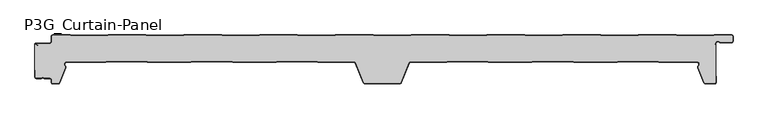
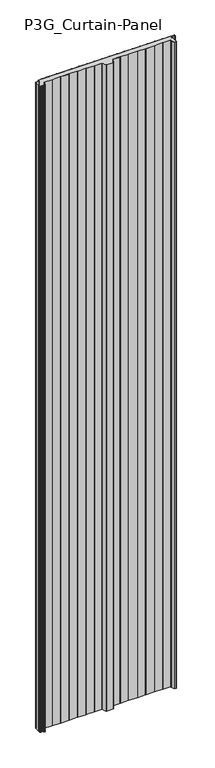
"""IFC4 building model written with IfcOpenShell, lengths in millimetres: plate geometry, P3G_Curtain-Panel : ACH_P3G_3-Rib-Roof-Panel_40M."""

import ifcopenshell
import ifcopenshell.guid

model = None  # the IFC model being written
_history = None  # IfcOwnerHistory: only IFC2X3 demands one
_inside = {}  # id of a spatial element -> (the spatial element, [elements in it])
_under = {}  # id of a project, library or spatial element -> (it, [spatial elements below it])
_declared = {}  # id of a project -> (the project, [libraries it declares])
_typed = {}  # id of a type object -> (the type object, [elements of that type])
_made_of = {}  # id of a material, layer set ... -> (it, [elements and type objects made of it])


def new_model(schema):
    """Start an empty IFC model of exactly this schema.

    Asked for "IFC4X3", IfcOpenShell would pick the latest addendum, in which some entities
    have other attributes; the version numbers below select the first issue.
    IFC2X3 requires an IfcOwnerHistory on every rooted entity: one is made here for all.
    """
    global model, _history
    if schema == "IFC4X3":
        model = ifcopenshell.file(schema_version=(4, 3, 0, 0))
    else:
        model = ifcopenshell.file(schema=schema)
    _inside.clear()
    _under.clear()
    _declared.clear()
    _typed.clear()
    _made_of.clear()
    _history = None
    if model.schema == "IFC2X3":
        org = make("IfcOrganization", Name="unknown")
        user = make(
            "IfcPersonAndOrganization",
            ThePerson=make("IfcPerson", FamilyName="unknown"),
            TheOrganization=org,
        )
        app = make(
            "IfcApplication",
            ApplicationDeveloper=org,
            Version="unknown",
            ApplicationFullName="unknown",
            ApplicationIdentifier="unknown",
        )
        _history = make(
            "IfcOwnerHistory",
            OwningUser=user,
            OwningApplication=app,
            ChangeAction="ADDED",
            CreationDate=0,
        )
    return model


def make(cls, **values):
    """One entity of the class cls with the attributes given. An attribute that is None is left unset."""
    return model.create_entity(
        cls, **{name: value for name, value in values.items() if value is not None}
    )


def rooted(cls, **values):
    """An entity with a GlobalId (a new one), such as an element, a storey or a relation."""
    return make(cls, GlobalId=ifcopenshell.guid.new(), OwnerHistory=_history, **values)


def si_unit(unit_type, name, prefix=None):
    """IfcSIUnit, for example si_unit("LENGTHUNIT", "METRE", prefix="MILLI")."""
    return make("IfcSIUnit", UnitType=unit_type, Prefix=prefix, Name=name)


def assignment(units):
    """IfcUnitAssignment: the units of a project."""
    return None if units is None else make("IfcUnitAssignment", Units=units)


def point(xyz):
    """IfcCartesianPoint."""
    return None if xyz is None else make("IfcCartesianPoint", Coordinates=xyz)


def direction(xyz):
    """IfcDirection."""
    return None if xyz is None else make("IfcDirection", DirectionRatios=xyz)


def frame(location, z_axis=None, x_axis=None):
    """IfcAxis2Placement3D, a coordinate frame: its origin and axes. An axis left out is left unset."""
    return make(
        "IfcAxis2Placement3D",
        Location=point(location),
        Axis=direction(z_axis),
        RefDirection=direction(x_axis),
    )


def frame_2d(location, x_axis=None):
    """IfcAxis2Placement2D, a coordinate frame in the plane: its origin and x axis."""
    return make(
        "IfcAxis2Placement2D", Location=point(location), RefDirection=direction(x_axis)
    )


def origin():
    """The frame at (0, 0, 0) with its axes left unset."""
    return frame((0.0, 0.0, 0.0))


def origin_with_axes():
    """The frame at (0, 0, 0) with the z axis (0, 0, 1) and the x axis (1, 0, 0) written out."""
    return frame((0.0, 0.0, 0.0), z_axis=(0.0, 0.0, 1.0), x_axis=(1.0, 0.0, 0.0))


def place(relative_to, where):
    """IfcLocalPlacement: puts the frame where relative to a parent placement (None: the world)."""
    return make(
        "IfcLocalPlacement", PlacementRelTo=relative_to, RelativePlacement=where
    )


def context(
    kind, dimensions, precision=None, world=None, true_north=None, identifier=None
):
    """IfcGeometricRepresentationContext, for example the 3D "Model" context."""
    return make(
        "IfcGeometricRepresentationContext",
        ContextIdentifier=identifier,
        ContextType=kind,
        CoordinateSpaceDimension=dimensions,
        Precision=precision,
        WorldCoordinateSystem=world,
        TrueNorth=true_north,
    )


def project(units=None, contexts=None):
    """IfcProject with its units and contexts."""
    return rooted(
        "IfcProject",
        Name="project",
        RepresentationContexts=contexts,
        UnitsInContext=assignment(units),
    )


def spatial(cls, under=None, at=None, **own):
    """A site, building, storey or space (cls), placed at a placement, below another one or the project."""
    s = rooted(cls, ObjectPlacement=at, **own)
    if under is not None:
        _under.setdefault(under.id(), (under, []))[1].append(s)
    return s


def polyline(points):
    """IfcPolyline through the points."""
    return make("IfcPolyline", Points=[point(p) for p in points])


def circle_curve(where, radius):
    """IfcCircle in the frame where."""
    return make("IfcCircle", Position=where, Radius=radius)


def trimmed(basis, trim1, trim2, sense, master):
    """IfcTrimmedCurve: the piece of a basis curve between two trims."""
    return make(
        "IfcTrimmedCurve",
        BasisCurve=basis,
        Trim1=trim1,
        Trim2=trim2,
        SenseAgreement=sense,
        MasterRepresentation=master,
    )


def segment(curve, same_sense, transition):
    """IfcCompositeCurveSegment."""
    return make(
        "IfcCompositeCurveSegment",
        Transition=transition,
        SameSense=same_sense,
        ParentCurve=curve,
    )


def composite_curve(segments, self_intersect=None):
    """IfcCompositeCurve: segments joined end to end."""
    return make("IfcCompositeCurve", Segments=segments, SelfIntersect=self_intersect)


def outline(outer, holes=None, kind="AREA"):
    """IfcArbitraryClosedProfileDef: a profile drawn as a closed curve; with holes, ...WithVoids."""
    if holes is None:
        return make("IfcArbitraryClosedProfileDef", ProfileType=kind, OuterCurve=outer)
    return make(
        "IfcArbitraryProfileDefWithVoids",
        ProfileType=kind,
        OuterCurve=outer,
        InnerCurves=holes,
    )


def extrude(swept, where, along, depth):
    """IfcExtrudedAreaSolid: the profile swept, set in the frame where, extruded along a direction by depth."""
    return make(
        "IfcExtrudedAreaSolid",
        SweptArea=swept,
        Position=where,
        ExtrudedDirection=direction(along),
        Depth=depth,
    )


def shape(context_of_items, identifier, shape_type, items):
    """IfcShapeRepresentation: the items that make up one representation, for example the "Body"."""
    return make(
        "IfcShapeRepresentation",
        ContextOfItems=context_of_items,
        RepresentationIdentifier=identifier,
        RepresentationType=shape_type,
        Items=items,
    )


def source(mapping_origin, context_of_items, identifier, shape_type, items):
    """IfcRepresentationMap: a shape defined once, which mapped items show again and again."""
    return make(
        "IfcRepresentationMap",
        MappingOrigin=mapping_origin,
        MappedRepresentation=shape(context_of_items, identifier, shape_type, items),
    )


def transform(
    local_origin,
    x_axis=None,
    y_axis=None,
    z_axis=None,
    scale=None,
    scale2=None,
    scale3=None,
    uniform=True,
):
    """IfcCartesianTransformationOperator3D, or its non-uniform kind. x_axis, y_axis, z_axis: its Axis1, 2, 3."""
    if uniform:
        return make(
            "IfcCartesianTransformationOperator3D",
            Axis1=direction(x_axis),
            Axis2=direction(y_axis),
            LocalOrigin=point(local_origin),
            Scale=scale,
            Axis3=direction(z_axis),
        )
    return make(
        "IfcCartesianTransformationOperator3DnonUniform",
        Axis1=direction(x_axis),
        Axis2=direction(y_axis),
        LocalOrigin=point(local_origin),
        Scale=scale,
        Axis3=direction(z_axis),
        Scale2=scale2,
        Scale3=scale3,
    )


def mapped(mapping_source, mapping_target):
    """IfcMappedItem: shows the shape of a source again, moved by a transform."""
    return make(
        "IfcMappedItem", MappingSource=mapping_source, MappingTarget=mapping_target
    )


def made_of(thing, what):
    """Note that an element or type object is made of a material, layer set ...; save() writes the relation."""
    if what is not None:
        _made_of.setdefault(what.id(), (what, []))[1].append(thing)
    return thing


def element(
    cls,
    number,
    at=None,
    inside=None,
    cuts=None,
    type_object=None,
    material=None,
    context=None,
    identifier="Body",
    shape_type=None,
    held_by="IfcProductDefinitionShape",
    body=None,
    shapes=None,
    **own,
):
    """One element of the class cls, such as IfcWall. Its Tag is "e" and its number.

    at: its placement. inside: the storey or other place that contains it. cuts: it is an
    opening in that element (IfcRelVoidsElement). A single representation is given by context,
    identifier, shape_type and body (its items); several are given by shapes. held_by: the class
    of the entity that holds the representations. save() writes the other relations.
    """
    e = rooted(cls, Tag="e%d" % number, ObjectPlacement=at, **own)
    if body is not None:
        shapes = [shape(context, identifier, shape_type, body)]
    if shapes is not None:
        e.Representation = make(held_by, Representations=shapes)
    if inside is not None:
        _inside.setdefault(inside.id(), (inside, []))[1].append(e)
    if cuts is not None:
        rooted(
            "IfcRelVoidsElement", RelatingBuildingElement=cuts, RelatedOpeningElement=e
        )
    if type_object is not None:
        _typed.setdefault(type_object.id(), (type_object, []))[1].append(e)
    return made_of(e, material)


def aggregate(whole, parts):
    """IfcRelAggregates: a whole, such as a stair, and the parts it consists of."""
    return rooted("IfcRelAggregates", RelatingObject=whole, RelatedObjects=parts)


def save(model, path):
    """Write the relations noted so far, then the file.

    IfcRelAggregates (storeys below a building ...), IfcRelContainedInSpatialStructure (elements
    in a storey), IfcRelDefinesByType, IfcRelAssociatesMaterial and IfcRelDeclares: one each for
    every whole, place, type object, material and project.
    """
    for whole, parts in _under.values():
        aggregate(whole, parts)
    for where, things in _inside.values():
        rooted(
            "IfcRelContainedInSpatialStructure",
            RelatedElements=things,
            RelatingStructure=where,
        )
    for kind, things in _typed.values():
        rooted("IfcRelDefinesByType", RelatedObjects=things, RelatingType=kind)
    for what, things in _made_of.values():
        rooted("IfcRelAssociatesMaterial", RelatedObjects=things, RelatingMaterial=what)
    for by, libraries in _declared.values():
        rooted("IfcRelDeclares", RelatingContext=by, RelatedDefinitions=libraries)
    model.write(path)


def p3g_curtain_panel_b13fab03(model_context):
    return source(origin(), model_context, "Body", "SweptSolid", [
        extrude(outline(composite_curve([segment(polyline([(-499.496875, -13.8660254), (-495.496875, -16.1754265), (-495.096875, -15.4826062), (-498.1272598, -13.7330127)]), True, "CONTINUOUS"), segment(trimmed(circle_curve(frame_2d((-497.8772598, -13.3)), 0.5), [point((-498.1272598, -13.7330127))], [point((-497.8772598, -12.8))], False, "CARTESIAN"), True, "CONTINUOUS"), segment(polyline([(-497.8772598, -12.8), (-477.996875, -12.8)]), True, "CONTINUOUS"), segment(trimmed(circle_curve(frame_2d((-477.996875, -10.0)), 2.8), [point((-477.996875, -12.8))], [point((-475.196875, -10.0))], True, "CARTESIAN"), True, "CONTINUOUS"), segment(polyline([(-475.196875, -10.0), (-475.196875, -2.5)]), True, "CONTINUOUS"), segment(trimmed(circle_curve(frame_2d((-473.496875, -2.5)), 1.7), [point((-475.196875, -2.5))], [point((-473.496875, -0.8))], False, "CARTESIAN"), True, "CONTINUOUS"), segment(polyline([(-473.496875, -0.8), (-448.4313592, -0.8), (-447.4338592, -1.4), (-393.4298908, -1.4), (-392.4323908, -0.8), (-337.3213592, -0.8), (-336.3238592, -1.4), (-282.3198908, -1.4), (-281.3223908, -0.8), (-226.2113592, -0.8), (-225.2138592, -1.4), (-171.2098908, -1.4), (-170.2123908, -0.8), (-115.1013592, -0.8), (-114.1038592, -1.4), (-60.0998908, -1.4), (-59.1023908, -0.8), (-3.9913592, -0.8), (-2.9938592, -1.4), (51.0101092, -1.4), (52.0076092, -0.8), (107.1186408, -0.8), (108.1161408, -1.4), (162.1201092, -1.4), (163.1176092, -0.8), (218.2286408, -0.8), (219.2261408, -1.4), (273.2301092, -1.4), (274.2276092, -0.8), (329.3386408, -0.8), (330.3361408, -1.4), (384.3401092, -1.4), (385.3376092, -0.8), (440.4486408, -0.8), (441.4461408, -1.4), (495.4501092, -1.4), (496.4476092, -0.8), (521.503125, -0.8)]), True, "CONTINUOUS"), segment(trimmed(circle_curve(frame_2d((521.503125, -2.5)), 1.7), [point((521.503125, -0.8))], [point((523.203125, -2.5))], False, "CARTESIAN"), True, "CONTINUOUS"), segment(polyline([(523.203125, -2.5), (523.203125, -9.0)]), True, "CONTINUOUS"), segment(trimmed(circle_curve(frame_2d((521.503125, -9.0)), 1.7), [point((523.203125, -9.0))], [point((521.503125, -10.7))], False, "CARTESIAN"), True, "CONTINUOUS"), segment(polyline([(521.503125, -10.7), (505.8568186, -10.7)]), True, "CONTINUOUS"), segment(trimmed(circle_curve(frame_2d((505.8568186, -9.0)), 1.7), [point((505.8568186, -10.7))], [point((504.7323743, -10.275))], False, "CARTESIAN"), True, "CONTINUOUS"), segment(trimmed(circle_curve(frame_2d((501.8881916, -13.5)), 4.3), [point((504.7323743, -10.275))], [point((497.8475134, -12.0293134))], True, "CARTESIAN"), True, "CONTINUOUS"), segment(polyline([(497.8475134, -12.0293134), (497.1006025, -14.0814342)]), True, "CONTINUOUS"), segment(trimmed(circle_curve(frame_2d((495.503125, -13.5)), 1.7), [point((497.1006025, -14.0814342))], [point((495.503125, -15.2))], False, "CARTESIAN"), True, "CONTINUOUS"), segment(polyline([(495.503125, -15.2), (490.503125, -15.2), (490.503125, -16.0), (495.503125, -16.0)]), True, "CONTINUOUS"), segment(trimmed(circle_curve(frame_2d((495.503125, -13.5)), 2.5), [point((495.503125, -16.0))], [point((497.8523566, -14.3550504))], True, "CARTESIAN"), True, "CONTINUOUS"), segment(polyline([(497.8523566, -14.3550504), (498.203125, -13.391322), (498.203125, -69.5)]), True, "CONTINUOUS"), segment(trimmed(circle_curve(frame_2d((496.503125, -69.5)), 1.7), [point((498.203125, -69.5))], [point((496.503125, -71.2))], False, "CARTESIAN"), True, "CONTINUOUS"), segment(polyline([(496.503125, -71.2), (483.6093963, -71.2)]), True, "CONTINUOUS"), segment(trimmed(circle_curve(frame_2d((483.6093963, -69.5)), 1.7), [point((483.6093963, -71.2))], [point((482.0331837, -70.1368312))], False, "CARTESIAN"), True, "CONTINUOUS"), segment(polyline([(482.0331837, -70.1368312), (473.0241766, -47.838756)]), True, "CONTINUOUS"), segment(trimmed(circle_curve(frame_2d((474.6003891, -47.2019248)), 1.7), [point((473.0241766, -47.838756))], [point((473.4430606, -45.9566976))], False, "CARTESIAN"), True, "CONTINUOUS"), segment(trimmed(circle_curve(frame_2d((470.7880129, -43.1)), 3.9), [point((473.4430606, -45.9566976))], [point((470.7880129, -39.2))], True, "CARTESIAN"), True, "CONTINUOUS"), segment(polyline([(470.7880129, -39.2), (415.2251881, -39.2), (414.2276881, -38.6), (354.7785619, -38.6), (353.7810619, -39.2), (290.2252392, -39.2), (289.2266715, -38.6), (229.7795785, -38.6), (228.7810108, -39.2), (165.225925, -39.2), (164.2273573, -38.6), (104.7788927, -38.6), (103.780325, -39.2), (50.7367047, -39.2)]), True, "CONTINUOUS"), segment(trimmed(circle_curve(frame_2d((50.7367047, -42.0)), 2.8), [point((50.7367047, -39.2))], [point((48.1405899, -40.9511015))], True, "CARTESIAN"), True, "CONTINUOUS"), segment(polyline([(48.1405899, -40.9511015), (36.4751274, -69.8241345)]), True, "CONTINUOUS"), segment(trimmed(circle_curve(frame_2d((34.4353229, -69.0)), 2.2), [point((36.4751274, -69.8241345))], [point((34.4353229, -71.2))], False, "CARTESIAN"), True, "CONTINUOUS"), segment(polyline([(34.4353229, -71.2), (-15.5090729, -71.2)]), True, "CONTINUOUS"), segment(trimmed(circle_curve(frame_2d((-15.5090729, -69.0)), 2.2), [point((-15.5090729, -71.2))], [point((-17.5488774, -69.8241345))], False, "CARTESIAN"), True, "CONTINUOUS"), segment(polyline([(-17.5488774, -69.8241345), (-29.2143399, -40.9511015)]), True, "CONTINUOUS"), segment(trimmed(circle_curve(frame_2d((-31.8104547, -42.0)), 2.8), [point((-29.2143399, -40.9511015))], [point((-31.8104547, -39.2))], True, "CARTESIAN"), True, "CONTINUOUS"), segment(polyline([(-31.8104547, -39.2), (-84.8548119, -39.2), (-85.8523119, -38.6), (-145.3014381, -38.6), (-146.2989381, -39.2), (-209.8548119, -39.2), (-210.8523119, -38.6), (-270.3014381, -38.6), (-271.2989381, -39.2), (-334.8548119, -39.2), (-335.8523119, -38.6), (-395.3011073, -38.6), (-396.299675, -39.2), (-453.2387629, -39.2)]), True, "CONTINUOUS"), segment(trimmed(circle_curve(frame_2d((-453.2387629, -43.1)), 3.9), [point((-453.2387629, -39.2))], [point((-455.8938106, -45.9566976))], True, "CARTESIAN"), True, "CONTINUOUS"), segment(trimmed(circle_curve(frame_2d((-457.0511391, -47.2019248)), 1.7), [point((-455.8938106, -45.9566976))], [point((-455.4749266, -47.838756))], False, "CARTESIAN"), True, "CONTINUOUS"), segment(polyline([(-455.4749266, -47.838756), (-464.4839337, -70.1368312)]), True, "CONTINUOUS"), segment(trimmed(circle_curve(frame_2d((-466.0601463, -69.5)), 1.7), [point((-464.4839337, -70.1368312))], [point((-466.0601463, -71.2))], False, "CARTESIAN"), True, "CONTINUOUS"), segment(polyline([(-466.0601463, -71.2), (-473.496875, -71.2)]), True, "CONTINUOUS"), segment(trimmed(circle_curve(frame_2d((-473.496875, -69.5)), 1.7), [point((-473.496875, -71.2))], [point((-475.196875, -69.5))], False, "CARTESIAN"), True, "CONTINUOUS"), segment(polyline([(-475.196875, -69.5), (-475.196875, -66.0)]), True, "CONTINUOUS"), segment(trimmed(circle_curve(frame_2d((-477.996875, -66.0)), 2.8), [point((-475.196875, -66.0))], [point((-477.996875, -63.2))], True, "CARTESIAN"), True, "CONTINUOUS"), segment(polyline([(-477.996875, -63.2), (-486.5995084, -63.2)]), True, "CONTINUOUS"), segment(trimmed(circle_curve(frame_2d((-488.496875, -64.5)), 2.3), [point((-486.5995084, -63.2))], [point((-490.3942416, -63.2))], True, "CARTESIAN"), True, "CONTINUOUS"), segment(polyline([(-490.3942416, -63.2), (-497.496875, -63.2)]), True, "CONTINUOUS"), segment(trimmed(circle_curve(frame_2d((-497.496875, -61.5)), 1.7), [point((-497.496875, -63.2))], [point((-499.196875, -61.5))], False, "CARTESIAN"), True, "CONTINUOUS"), segment(polyline([(-499.196875, -61.5), (-499.196875, -51.18), (-499.996875, -51.18), (-499.996875, -13.0)]), True, "CONTINUOUS"), segment(trimmed(circle_curve(frame_2d((-498.996875, -13.0)), 1.0), [point((-499.996875, -13.0))], [point((-499.496875, -13.8660254))], True, "CARTESIAN"), True, "CONTINUOUS")], self_intersect=False)), origin_with_axes(), (0.0, 0.0, 1.0), 5000.0),
        extrude(outline(composite_curve([segment(trimmed(circle_curve(frame_2d((-478.0, -10.0)), 2.0), [point((-478.0, -12.0))], [point((-476.0, -10.0))], True, "CARTESIAN"), True, "CONTINUOUS"), segment(polyline([(-476.0, -10.0), (-476.0, -2.5)]), True, "CONTINUOUS"), segment(trimmed(circle_curve(frame_2d((-473.5, -2.5)), 2.5), [point((-476.0, -2.5))], [point((-473.5, 0.0))], False, "CARTESIAN"), True, "CONTINUOUS"), segment(polyline([(-473.5, 0.0), (-448.2124211, 0.0), (-447.2149211, -0.6), (-393.6550789, -0.6), (-392.6575789, 0.0), (-337.1024211, 0.0), (-336.1049211, -0.6), (-282.5450789, -0.6), (-281.5475789, 0.0), (-225.9924211, 0.0), (-224.9949211, -0.6), (-171.4350789, -0.6), (-170.4375789, 0.0), (-114.8824211, 0.0), (-113.8849211, -0.6), (-60.3250789, -0.6), (-59.3275789, 0.0), (-3.7724211, 0.0), (-2.7749211, -0.6), (50.7849211, -0.6), (51.7824211, 0.0), (107.3375789, 0.0), (108.3350789, -0.6), (161.8949211, -0.6), (162.8924211, 0.0), (218.4475789, 0.0), (219.4450789, -0.6), (273.0049211, -0.6), (274.0024211, 0.0), (329.5575789, 0.0), (330.5550789, -0.6), (384.1149211, -0.6), (385.1124211, 0.0), (440.6675789, 0.0), (441.6650789, -0.6), (495.2249211, -0.6), (496.2224211, 0.0), (521.5, 0.0)]), True, "CONTINUOUS"), segment(trimmed(circle_curve(frame_2d((521.5, -2.5)), 2.5), [point((521.5, 0.0))], [point((524.0, -2.5))], False, "CARTESIAN"), True, "CONTINUOUS"), segment(polyline([(524.0, -2.5), (524.0, -9.0)]), True, "CONTINUOUS"), segment(trimmed(circle_curve(frame_2d((521.5, -9.0)), 2.5), [point((524.0, -9.0))], [point((521.5, -11.5))], False, "CARTESIAN"), True, "CONTINUOUS"), segment(polyline([(521.5, -11.5), (505.8536936, -11.5)]), True, "CONTINUOUS"), segment(trimmed(circle_curve(frame_2d((505.8536936, -9.0)), 2.5), [point((505.8536936, -11.5))], [point((504.200099, -10.875))], False, "CARTESIAN"), True, "CONTINUOUS"), segment(trimmed(circle_curve(frame_2d((501.8850666, -13.5)), 3.5), [point((504.200099, -10.875))], [point((498.5961425, -12.3029295))], True, "CARTESIAN"), True, "CONTINUOUS"), segment(polyline([(498.5961425, -12.3029295), (497.8492316, -14.3550504)]), True, "CONTINUOUS"), segment(trimmed(circle_curve(frame_2d((495.5, -13.5)), 2.5), [point((497.8492316, -14.3550504))], [point((495.5, -16.0))], False, "CARTESIAN"), True, "CONTINUOUS"), segment(polyline([(495.5, -16.0), (490.5, -16.0), (490.5, -15.2), (495.5, -15.2)]), True, "CONTINUOUS"), segment(trimmed(circle_curve(frame_2d((495.5, -13.5)), 1.7), [point((495.5, -15.2))], [point((497.0974775, -14.0814342))], True, "CARTESIAN"), True, "CONTINUOUS"), segment(polyline([(497.0974775, -14.0814342), (497.8443884, -12.0293134)]), True, "CONTINUOUS"), segment(trimmed(circle_curve(frame_2d((501.8850666, -13.5)), 4.3), [point((497.8443884, -12.0293134))], [point((504.7292493, -10.275))], False, "CARTESIAN"), True, "CONTINUOUS"), segment(trimmed(circle_curve(frame_2d((505.8536936, -9.0)), 1.7), [point((504.7292493, -10.275))], [point((505.8536936, -10.7))], True, "CARTESIAN"), True, "CONTINUOUS"), segment(polyline([(505.8536936, -10.7), (521.5, -10.7)]), True, "CONTINUOUS"), segment(trimmed(circle_curve(frame_2d((521.5, -9.0)), 1.7), [point((521.5, -10.7))], [point((523.2, -9.0))], True, "CARTESIAN"), True, "CONTINUOUS"), segment(polyline([(523.2, -9.0), (523.2, -2.5)]), True, "CONTINUOUS"), segment(trimmed(circle_curve(frame_2d((521.5, -2.5)), 1.7), [point((523.2, -2.5))], [point((521.5, -0.8))], True, "CARTESIAN"), True, "CONTINUOUS"), segment(polyline([(521.5, -0.8), (496.4444842, -0.8), (495.4469842, -1.4), (441.4430158, -1.4), (440.4455158, -0.8), (385.3344842, -0.8), (384.3369842, -1.4), (330.3330158, -1.4), (329.3355158, -0.8), (274.2244842, -0.8), (273.2269842, -1.4), (219.2230158, -1.4), (218.2255158, -0.8), (163.1144842, -0.8), (162.1169842, -1.4), (108.1130158, -1.4), (107.1155158, -0.8), (52.0044842, -0.8), (51.0069842, -1.4), (-2.9969842, -1.4), (-3.9944842, -0.8), (-59.1055158, -0.8), (-60.1030158, -1.4), (-114.1069842, -1.4), (-115.1044842, -0.8), (-170.2155158, -0.8), (-171.2130158, -1.4), (-225.2169842, -1.4), (-226.2144842, -0.8), (-281.3255158, -0.8), (-282.3230158, -1.4), (-336.3269842, -1.4), (-337.3244842, -0.8), (-392.4355158, -0.8), (-393.4330158, -1.4), (-447.4369842, -1.4), (-448.4344842, -0.8), (-473.5, -0.8)]), True, "CONTINUOUS"), segment(trimmed(circle_curve(frame_2d((-473.5, -2.5)), 1.7), [point((-473.5, -0.8))], [point((-475.2, -2.5))], True, "CARTESIAN"), True, "CONTINUOUS"), segment(polyline([(-475.2, -2.5), (-475.2, -10.0)]), True, "CONTINUOUS"), segment(trimmed(circle_curve(frame_2d((-478.0, -10.0)), 2.8), [point((-475.2, -10.0))], [point((-478.0, -12.8))], False, "CARTESIAN"), True, "CONTINUOUS"), segment(polyline([(-478.0, -12.8), (-497.8803848, -12.8)]), True, "CONTINUOUS"), segment(trimmed(circle_curve(frame_2d((-497.8803848, -13.3)), 0.5), [point((-497.8803848, -12.8))], [point((-498.1303848, -13.7330127))], True, "CARTESIAN"), True, "CONTINUOUS"), segment(polyline([(-498.1303848, -13.7330127), (-495.1, -15.4826062), (-495.5, -16.1754265), (-499.5, -13.8660254)]), True, "CONTINUOUS"), segment(trimmed(circle_curve(frame_2d((-499.0, -13.0)), 1.0), [point((-499.5, -13.8660254))], [point((-499.0, -12.0))], False, "CARTESIAN"), True, "CONTINUOUS"), segment(polyline([(-499.0, -12.0), (-478.0, -12.0)]), True, "CONTINUOUS")], self_intersect=False)), origin_with_axes(), (0.0, 0.0, 1.0), 5000.0),
        extrude(outline(composite_curve([segment(polyline([(-500.0, -61.5), (-500.0, -51.18), (-499.2, -51.18), (-499.2, -61.5)]), True, "CONTINUOUS"), segment(trimmed(circle_curve(frame_2d((-497.5, -61.5)), 1.7), [point((-499.2, -61.5))], [point((-497.5, -63.2))], True, "CARTESIAN"), True, "CONTINUOUS"), segment(polyline([(-497.5, -63.2), (-490.3973666, -63.2)]), True, "CONTINUOUS"), segment(trimmed(circle_curve(frame_2d((-488.5, -64.5)), 2.3), [point((-490.3973666, -63.2))], [point((-486.6026334, -63.2))], False, "CARTESIAN"), True, "CONTINUOUS"), segment(polyline([(-486.6026334, -63.2), (-478.0, -63.2)]), True, "CONTINUOUS"), segment(trimmed(circle_curve(frame_2d((-478.0, -66.0)), 2.8), [point((-478.0, -63.2))], [point((-475.2, -66.0))], False, "CARTESIAN"), True, "CONTINUOUS"), segment(polyline([(-475.2, -66.0), (-475.2, -69.5)]), True, "CONTINUOUS"), segment(trimmed(circle_curve(frame_2d((-473.5, -69.5)), 1.7), [point((-475.2, -69.5))], [point((-473.5, -71.2))], True, "CARTESIAN"), True, "CONTINUOUS"), segment(polyline([(-473.5, -71.2), (-466.0632713, -71.2)]), True, "CONTINUOUS"), segment(trimmed(circle_curve(frame_2d((-466.0632713, -69.5)), 1.7), [point((-466.0632713, -71.2))], [point((-464.4870587, -70.1368312))], True, "CARTESIAN"), True, "CONTINUOUS"), segment(polyline([(-464.4870587, -70.1368312), (-455.4780516, -47.838756)]), True, "CONTINUOUS"), segment(trimmed(circle_curve(frame_2d((-457.0542641, -47.2019248)), 1.7), [point((-455.4780516, -47.838756))], [point((-455.8969356, -45.9566976))], True, "CARTESIAN"), True, "CONTINUOUS"), segment(trimmed(circle_curve(frame_2d((-453.2418879, -43.1)), 3.9), [point((-455.8969356, -45.9566976))], [point((-453.2418879, -39.2))], False, "CARTESIAN"), True, "CONTINUOUS"), segment(polyline([(-453.2418879, -39.2), (-396.3028, -39.2), (-395.3042323, -38.6), (-335.8554369, -38.6), (-334.8579369, -39.2), (-271.3020631, -39.2), (-270.3045631, -38.6), (-210.8554369, -38.6), (-209.8579369, -39.2), (-146.3020631, -39.2), (-145.3045631, -38.6), (-85.8554369, -38.6), (-84.8579369, -39.2), (-31.8135797, -39.2)]), True, "CONTINUOUS"), segment(trimmed(circle_curve(frame_2d((-31.8135797, -42.0)), 2.8), [point((-31.8135797, -39.2))], [point((-29.2174649, -40.9511015))], False, "CARTESIAN"), True, "CONTINUOUS"), segment(polyline([(-29.2174649, -40.9511015), (-17.5520024, -69.8241345)]), True, "CONTINUOUS"), segment(trimmed(circle_curve(frame_2d((-15.5121979, -69.0)), 2.2), [point((-17.5520024, -69.8241345))], [point((-15.5121979, -71.2))], True, "CARTESIAN"), True, "CONTINUOUS"), segment(polyline([(-15.5121979, -71.2), (34.4321979, -71.2)]), True, "CONTINUOUS"), segment(trimmed(circle_curve(frame_2d((34.4321979, -69.0)), 2.2), [point((34.4321979, -71.2))], [point((36.4720024, -69.8241345))], True, "CARTESIAN"), True, "CONTINUOUS"), segment(polyline([(36.4720024, -69.8241345), (48.1374649, -40.9511015)]), True, "CONTINUOUS"), segment(trimmed(circle_curve(frame_2d((50.7335797, -42.0)), 2.8), [point((48.1374649, -40.9511015))], [point((50.7335797, -39.2))], False, "CARTESIAN"), True, "CONTINUOUS"), segment(polyline([(50.7335797, -39.2), (103.7772, -39.2), (104.7757677, -38.6), (164.2242323, -38.6), (165.2228, -39.2), (228.7778858, -39.2), (229.7764535, -38.6), (289.2235465, -38.6), (290.2221142, -39.2), (353.7779369, -39.2), (354.7754369, -38.6), (414.2245631, -38.6), (415.2220631, -39.2), (470.7848879, -39.2)]), True, "CONTINUOUS"), segment(trimmed(circle_curve(frame_2d((470.7848879, -43.1)), 3.9), [point((470.7848879, -39.2))], [point((473.4399356, -45.9566976))], False, "CARTESIAN"), True, "CONTINUOUS"), segment(trimmed(circle_curve(frame_2d((474.5972641, -47.2019248)), 1.7), [point((473.4399356, -45.9566976))], [point((473.0210516, -47.838756))], True, "CARTESIAN"), True, "CONTINUOUS"), segment(polyline([(473.0210516, -47.838756), (482.0300587, -70.1368312)]), True, "CONTINUOUS"), segment(trimmed(circle_curve(frame_2d((483.6062713, -69.5)), 1.7), [point((482.0300587, -70.1368312))], [point((483.6062713, -71.2))], True, "CARTESIAN"), True, "CONTINUOUS"), segment(polyline([(483.6062713, -71.2), (496.5, -71.2)]), True, "CONTINUOUS"), segment(trimmed(circle_curve(frame_2d((496.5, -69.5)), 1.7), [point((496.5, -71.2))], [point((498.2, -69.5))], True, "CARTESIAN"), True, "CONTINUOUS"), segment(polyline([(498.2, -69.5), (498.2, -61.0), (499.0, -61.0), (499.0, -69.5)]), True, "CONTINUOUS"), segment(trimmed(circle_curve(frame_2d((496.5, -69.5)), 2.5), [point((499.0, -69.5))], [point((496.5, -72.0))], False, "CARTESIAN"), True, "CONTINUOUS"), segment(polyline([(496.5, -72.0), (483.6062713, -72.0)]), True, "CONTINUOUS"), segment(trimmed(circle_curve(frame_2d((483.6062713, -69.5)), 2.5), [point((483.6062713, -72.0))], [point((481.2883117, -70.4365165))], False, "CARTESIAN"), True, "CONTINUOUS"), segment(polyline([(481.2883117, -70.4365165), (472.2793045, -48.1384413)]), True, "CONTINUOUS"), segment(trimmed(circle_curve(frame_2d((474.5972641, -47.2019248)), 2.5), [point((472.2793045, -48.1384413))], [point((472.8953104, -45.3707084))], False, "CARTESIAN"), True, "CONTINUOUS"), segment(trimmed(circle_curve(frame_2d((470.7848879, -43.1)), 3.1), [point((472.8953104, -45.3707084))], [point((470.7848879, -40.0))], True, "CARTESIAN"), True, "CONTINUOUS"), segment(polyline([(470.7848879, -40.0), (415.0, -40.0), (414.0025, -39.4), (354.9975, -39.4), (354.0, -40.0), (290.0002546, -40.0), (289.0016869, -39.4), (229.9983131, -39.4), (228.9997454, -40.0), (165.0009404, -40.0), (164.0023727, -39.4), (104.9976273, -39.4), (103.9990596, -40.0), (50.7335797, -40.0)]), True, "CONTINUOUS"), segment(trimmed(circle_curve(frame_2d((50.7335797, -42.0)), 2.0), [point((50.7335797, -40.0))], [point((48.879212, -41.2507868))], True, "CARTESIAN"), True, "CONTINUOUS"), segment(polyline([(48.879212, -41.2507868), (37.2137494, -70.1238198)]), True, "CONTINUOUS"), segment(trimmed(circle_curve(frame_2d((34.4321979, -69.0)), 3.0), [point((37.2137494, -70.1238198))], [point((34.4321979, -72.0))], False, "CARTESIAN"), True, "CONTINUOUS"), segment(polyline([(34.4321979, -72.0), (-15.5121979, -72.0)]), True, "CONTINUOUS"), segment(trimmed(circle_curve(frame_2d((-15.5121979, -69.0)), 3.0), [point((-15.5121979, -72.0))], [point((-18.2937494, -70.1238198))], False, "CARTESIAN"), True, "CONTINUOUS"), segment(polyline([(-18.2937494, -70.1238198), (-29.959212, -41.2507868)]), True, "CONTINUOUS"), segment(trimmed(circle_curve(frame_2d((-31.8135797, -42.0)), 2.0), [point((-29.959212, -41.2507868))], [point((-31.8135797, -40.0))], True, "CARTESIAN"), True, "CONTINUOUS"), segment(polyline([(-31.8135797, -40.0), (-85.08, -40.0), (-86.0775, -39.4), (-145.0825, -39.4), (-146.08, -40.0), (-210.08, -40.0), (-211.0775, -39.4), (-270.0825, -39.4), (-271.08, -40.0), (-335.08, -40.0), (-336.0775, -39.4), (-395.0823727, -39.4), (-396.0809404, -40.0), (-453.2418879, -40.0)]), True, "CONTINUOUS"), segment(trimmed(circle_curve(frame_2d((-453.2418879, -43.1)), 3.1), [point((-453.2418879, -40.0))], [point((-455.3523104, -45.3707084))], True, "CARTESIAN"), True, "CONTINUOUS"), segment(trimmed(circle_curve(frame_2d((-457.0542641, -47.2019248)), 2.5), [point((-455.3523104, -45.3707084))], [point((-454.7363045, -48.1384413))], False, "CARTESIAN"), True, "CONTINUOUS"), segment(polyline([(-454.7363045, -48.1384413), (-463.7453117, -70.4365165)]), True, "CONTINUOUS"), segment(trimmed(circle_curve(frame_2d((-466.0632713, -69.5)), 2.5), [point((-463.7453117, -70.4365165))], [point((-466.0632713, -72.0))], False, "CARTESIAN"), True, "CONTINUOUS"), segment(polyline([(-466.0632713, -72.0), (-473.5, -72.0)]), True, "CONTINUOUS"), segment(trimmed(circle_curve(frame_2d((-473.5, -69.5)), 2.5), [point((-473.5, -72.0))], [point((-476.0, -69.5))], False, "CARTESIAN"), True, "CONTINUOUS"), segment(polyline([(-476.0, -69.5), (-476.0, -66.0)]), True, "CONTINUOUS"), segment(trimmed(circle_curve(frame_2d((-478.0, -66.0)), 2.0), [point((-476.0, -66.0))], [point((-478.0, -64.0))], True, "CARTESIAN"), True, "CONTINUOUS"), segment(polyline([(-478.0, -64.0), (-486.263932, -64.0)]), True, "CONTINUOUS"), segment(trimmed(circle_curve(frame_2d((-486.263932, -62.5)), 1.5), [point((-486.263932, -64.0))], [point((-487.381966, -63.5))], False, "CARTESIAN"), True, "CONTINUOUS"), segment(trimmed(circle_curve(frame_2d((-488.5, -64.5)), 1.5), [point((-487.381966, -63.5))], [point((-489.618034, -63.5))], True, "CARTESIAN"), True, "CONTINUOUS"), segment(trimmed(circle_curve(frame_2d((-490.736068, -62.5)), 1.5), [point((-489.618034, -63.5))], [point((-490.736068, -64.0))], False, "CARTESIAN"), True, "CONTINUOUS"), segment(polyline([(-490.736068, -64.0), (-497.5, -64.0)]), True, "CONTINUOUS"), segment(trimmed(circle_curve(frame_2d((-497.5, -61.5)), 2.5), [point((-497.5, -64.0))], [point((-500.0, -61.5))], False, "CARTESIAN"), True, "CONTINUOUS")], self_intersect=False)), origin_with_axes(), (0.0, 0.0, 1.0), 5000.0),
    ])


if __name__ == "__main__":
    model = new_model("IFC4")
    model_context = context("Model", 3, world=origin())
    ifc_project = project(units=[si_unit("LENGTHUNIT", "METRE", prefix="MILLI")], contexts=[model_context])
    site = spatial("IfcSite", under=ifc_project)
    building = spatial("IfcBuilding", under=site)
    placement = place(None, origin())
    p3g_curtain_panel_shape = p3g_curtain_panel_b13fab03(model_context)
    element("IfcPlate", 1, ObjectType="P3G_Curtain-Panel : ACH_P3G_3-Rib-Roof-Panel_40M", at=placement, inside=building, context=model_context, shape_type="MappedRepresentation", body=[
        mapped(p3g_curtain_panel_shape, transform((0.0, 0.0, 0.0), x_axis=(1.0, 0.0, 0.0), y_axis=(0.0, 1.0, 0.0), z_axis=(0.0, 0.0, 1.0))),
    ])
    save(model, "model.ifc")
